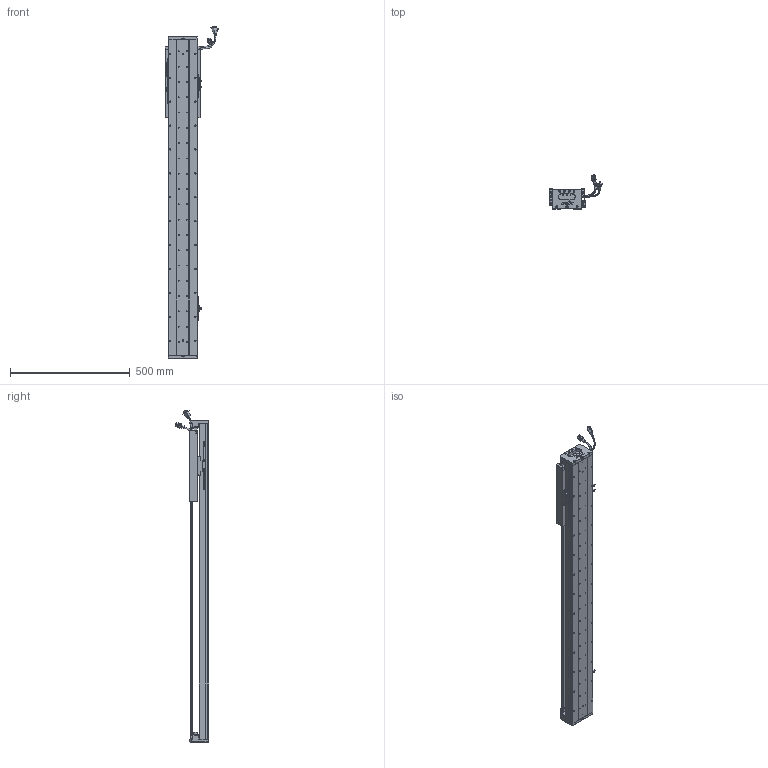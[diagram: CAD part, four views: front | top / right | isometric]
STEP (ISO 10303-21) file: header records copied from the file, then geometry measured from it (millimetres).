
FILE_DESCRIPTION (( 'STEP AP203' ), '1' );
FILE_NAME ('Z4-RY120D-1-L500-B-K.SLDASM_0950.step', '2021-05-17T06:06:52', ( '盈信电脑' ), ( '东莞市道滘镇水果街19号' ), 'SwSTEP 2.0', 'SolidWorks 2016', '' );
FILE_SCHEMA (( 'CONFIG_CONTROL_DESIGN' ));
Length unit declared in the file: millimetre
Products named in the file (37): LABEL; SEAL; PSLH080_PSLF2; 080黍杅芛假蚾釱21遴; Z-120詩湍傷裔啣; SCALE; Z4-RY120-L500詩湍100mm遵_0950; 榋妏寠巭燃_暯_M2_2; SCREW-M1.7-1; COVER-Part-1; SCALE-Part-1; HARNESS-Part-1; Z-RY120D詩湍狟揤裔; 140蚥薯蝶輸; Z4-RY120D-1-L500-B-K.SLDASM_0950; SHIELDPLATE; 120-Z-臏賑輸盄裔(21遴); SEAL-Part-1; SCREW-M1.7; SCALE-Part-2; RY100FB-遵嫖萇覜茼え; 覜茼ん672; HOLDER0; PBU_SHEET; SCREW-M1.6-1; HARNESS; LABEL-Part-1; Z-RY120D詩湍奻揤裔; Z4-RY120-500-倰第菁釱_0950; SCREW-M1.6; 140雄赽晤鎢ん堤盄; SCREW-M1.6-2; SCREW-M1.6-3; HARNESS-Part-2; COVER; 672嫖萇羲壽假蚾釱; Z4-RY120铝滑块（21款）
Assembly tree (43 placements, depth 4):
  Z4-RY120D-1-L500-B-K.SLDASM_0950
    Z4-RY120-500-倰第菁釱_0950
    覜茼ん672  x3
    672嫖萇羲壽假蚾釱  x2
    Z4-RY120铝滑块（21款）
    PSLH080_PSLF2
      SCALE
        SCALE-Part-1
        SCALE-Part-2
      HARNESS
        HARNESS-Part-1
        HARNESS-Part-2
      LABEL
        LABEL-Part-1
      COVER
        COVER-Part-1
      SEAL
        SEAL-Part-1
      榋妏寠巭燃_暯_M2_2
      SHIELDPLATE
      SCREW-M1.7
      SCREW-M1.7-1
      PBU_SHEET
      SCREW-M1.6
      SCREW-M1.6-1
      SCREW-M1.6-2
      SCREW-M1.6-3
      HOLDER0
    080黍杅芛假蚾釱21遴
    120-Z-臏賑輸盄裔(21遴)
    140雄赽晤鎢ん堤盄
    140蚥薯蝶輸  x2
    RY100FB-遵嫖萇覜茼え
    Z-120詩湍傷裔啣  x2
    Z-RY120D詩湍奻揤裔  x2
    Z-RY120D詩湍狟揤裔  x2
    Z4-RY120-L500詩湍100mm遵_0950
Bounding box: 222.88 x 140.94 x 1388.99 mm (x, y, z)
Volume: 3868178.5 mm3; surface area: 1275208 mm2
Topology: 38 solids, 38 shells, 2977 faces, 8138 edges, 5138 vertices
Faces by surface type: cylinder 1412, plane 1145, cone 298, torus 69, bspline 53
Entity records: 91773 total; most frequent: CARTESIAN_POINT 25322, ORIENTED_EDGE 13204, DIRECTION 12782, EDGE_CURVE 6602, AXIS2_PLACEMENT_3D 4692, VERTEX_POINT 4258, VECTOR 3398, LINE 3398
